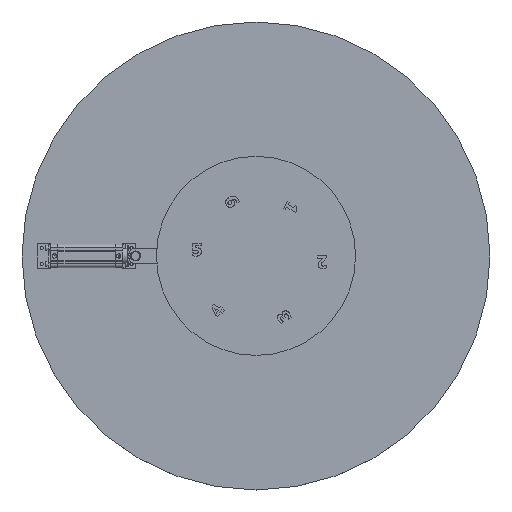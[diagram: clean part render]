
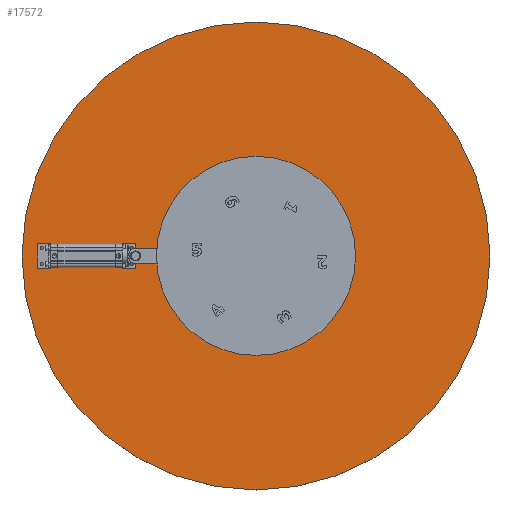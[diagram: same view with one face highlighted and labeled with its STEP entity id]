
A CAD part, top view. The second image highlights one B-rep face of the part: STEP entity #17572.
In plain terms, the highlighted planar face has unit normal (0, 0, 1) as drawn and (0, 0, -1) by its records, which use the part's own axes.
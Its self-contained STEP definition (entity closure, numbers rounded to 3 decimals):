
#709=FACE_BOUND('',#3907,.T.);
#1880=CIRCLE('',#19733,40.);
#1891=CIRCLE('',#19753,470.);
#2794=FACE_OUTER_BOUND('',#3906,.T.);
#3906=EDGE_LOOP('',(#15235));
#3907=EDGE_LOOP('',(#15236));
#8368=VERTEX_POINT('',#29658);
#8379=VERTEX_POINT('',#29695);
#10735=EDGE_CURVE('',#8368,#8368,#1880,.T.);
#10752=EDGE_CURVE('',#8379,#8379,#1891,.T.);
#15235=ORIENTED_EDGE('',*,*,#10752,.F.);
#15236=ORIENTED_EDGE('',*,*,#10735,.T.);
#16723=PLANE('',#19755);
#17572=ADVANCED_FACE('',(#2794,#709),#16723,.F.);
#19733=AXIS2_PLACEMENT_3D('',#29660,#24295,#24296);
#19753=AXIS2_PLACEMENT_3D('',#29697,#24341,#24342);
#19755=AXIS2_PLACEMENT_3D('',#29699,#24345,#24346);
#24295=DIRECTION('center_axis',(0.,0.,1.));
#24296=DIRECTION('ref_axis',(-1.,0.,0.));
#24341=DIRECTION('center_axis',(0.,0.,1.));
#24342=DIRECTION('ref_axis',(1.,0.,0.));
#24345=DIRECTION('center_axis',(0.,0.,1.));
#24346=DIRECTION('ref_axis',(1.,0.,0.));
#29658=CARTESIAN_POINT('',(308.013,0.,0.));
#29660=CARTESIAN_POINT('Origin',(268.013,0.,
0.));
#29695=CARTESIAN_POINT('',(-201.987,0.,0.));
#29697=CARTESIAN_POINT('Origin',(268.013,0.,
0.));
#29699=CARTESIAN_POINT('Origin',(268.013,0.,
0.));
